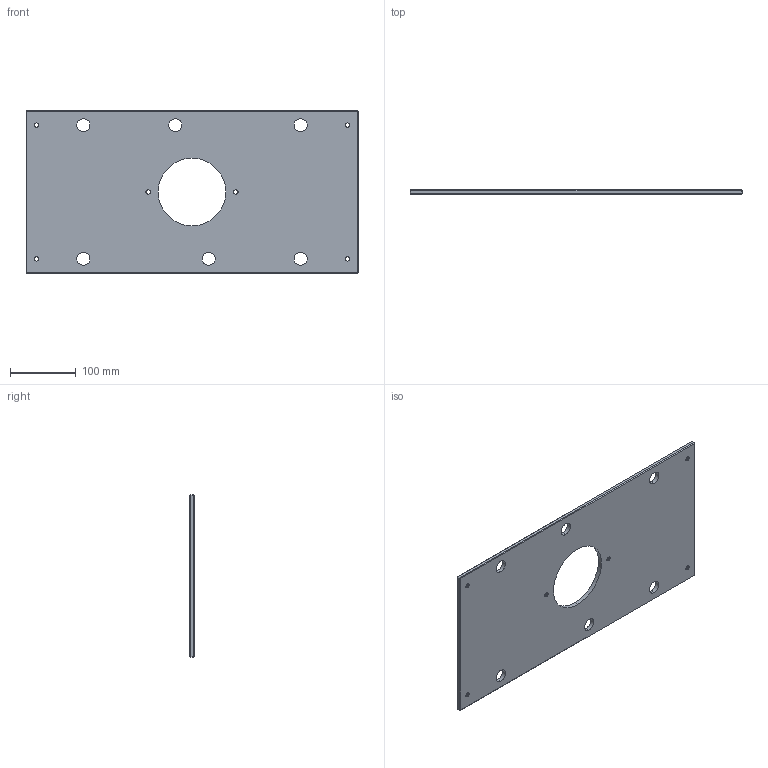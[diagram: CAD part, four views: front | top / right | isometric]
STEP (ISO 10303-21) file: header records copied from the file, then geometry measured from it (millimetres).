
FILE_DESCRIPTION (( 'STEP AP214' ), '1' );
FILE_NAME ('ME-0619-CH-1020-A.STEP', '2020-02-10T12:54:44', ( '' ), ( '' ), 'SwSTEP 2.0', 'SolidWorks 2018', '' );
FILE_SCHEMA (( 'AUTOMOTIVE_DESIGN' ));
Length unit declared in the file: inch
Products named in the file (1): ME-0619-CH-1020-A
Bounding box: 504.82 x 6.35 x 247.65 mm (x, y, z)
Volume: 723833.7 mm3; surface area: 241568.1 mm2
Topology: 1 solids, 1 shells, 64 faces, 150 edges, 88 vertices
Faces by surface type: cylinder 26, plane 26, cone 12
Entity records: 1902 total; most frequent: DIRECTION 344, CARTESIAN_POINT 303, ORIENTED_EDGE 300, EDGE_CURVE 150, AXIS2_PLACEMENT_3D 129, EDGE_LOOP 90, VERTEX_POINT 88, LINE 86
